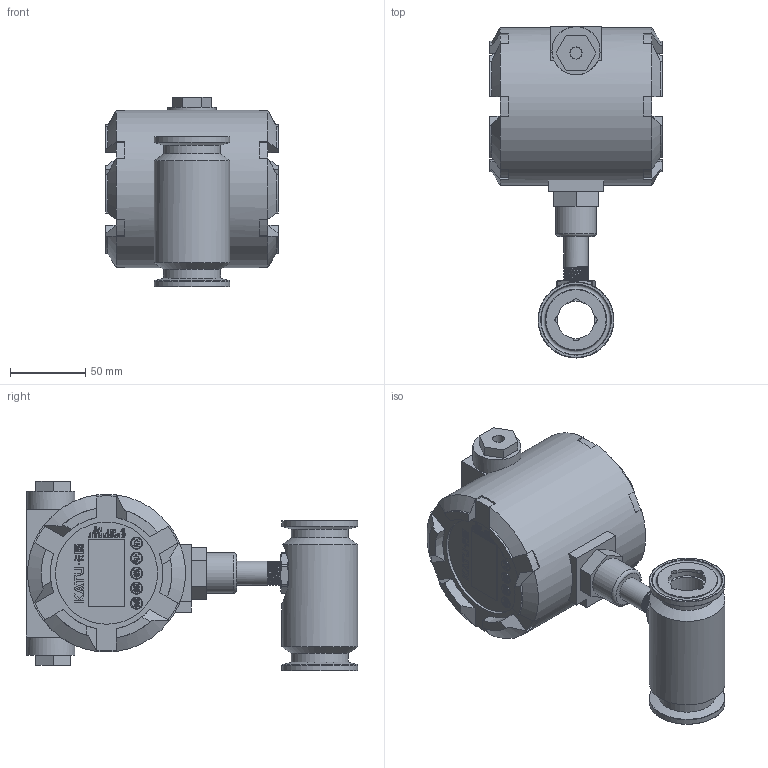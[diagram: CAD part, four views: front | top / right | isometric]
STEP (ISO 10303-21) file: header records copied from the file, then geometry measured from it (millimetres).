
FILE_DESCRIPTION( (''), '2;1');
FILE_NAME( 'QTKC_DN25_tri-clamp_Ex.step', '2024-11-15T08:11:43+08:00', (''), (''), '', '', '');
FILE_SCHEMA (('AUTOMOTIVE_DESIGN { 1 0 10303 214 3 1 1 1 }'));
Length unit declared in the file: millimetre
Products named in the file (1): QTKC DN25_tri-clamp_Ex
Bounding box: 115 x 220.75 x 126.2 mm (x, y, z)
Volume: 145211.2 mm3; surface area: 110312.7 mm2
Topology: 4 solids, 5 shells, 1422 faces, 3894 edges, 2584 vertices
Faces by surface type: plane 742, extrusion 504, cylinder 116, cone 38, torus 16, bspline 6
Full cylindrical faces by diameter (mm): 3.3 x1, 8 x2, 16 x20, 16.5 x1, 18.5 x1, 20 x2, 25 x1, 27 x1, 28 x2, 32 x2, 38 x2, 50.5 x3, 68 x1, 105 x1
Entity records: 50241 total; most frequent: CARTESIAN_POINT 16841, ORIENTED_EDGE 7528, DIRECTION 5252, EDGE_CURVE 3764, VECTOR 2868, VERTEX_POINT 2523, LINE 2364, B_SPLINE_CURVE_WITH_KNOTS 1606
